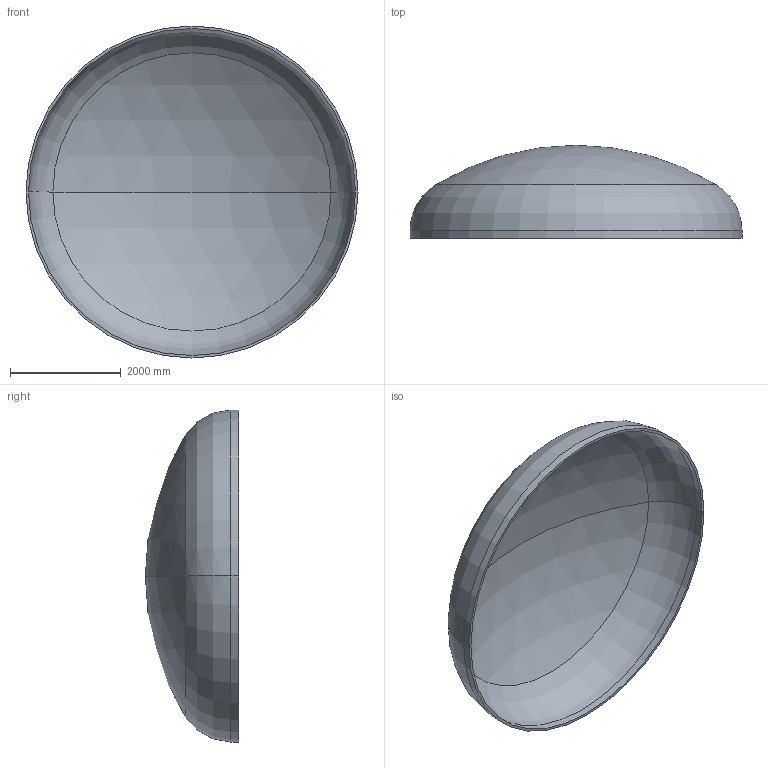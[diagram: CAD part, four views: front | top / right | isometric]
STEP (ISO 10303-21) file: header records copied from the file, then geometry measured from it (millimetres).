
FILE_DESCRIPTION (( 'STEP AP203' ), '1' );
FILE_NAME ('DIN 28013 Korbbogenform_-_Boden DIN 28013 - 6000 x 140 - I - s=45.step', '2016-07-04T10:37:10', ( '' ), ( '' ), 'SwSTEP 2.0', 'SolidWorks 2013', '' );
FILE_SCHEMA (( 'CONFIG_CONTROL_DESIGN' ));
Length unit declared in the file: millimetre
Products named in the file (1): DIN 28013 Korbbogenform_-_Boden DIN 28013 - 6000 x 140 - I - s=45
Bounding box: 6000 x 1684.28 x 6000 mm (x, y, z)
Volume: 1863036771.4 mm3; surface area: 83647712.2 mm2
Topology: 1 solids, 1 shells, 13 faces, 24 edges, 14 vertices
Faces by surface type: torus 4, cylinder 4, sphere 4, plane 1
Entity records: 407 total; most frequent: DIRECTION 72, CARTESIAN_POINT 52, ORIENTED_EDGE 48, AXIS2_PLACEMENT_3D 34, EDGE_CURVE 24, CIRCLE 20, EDGE_LOOP 14, VERTEX_POINT 14
